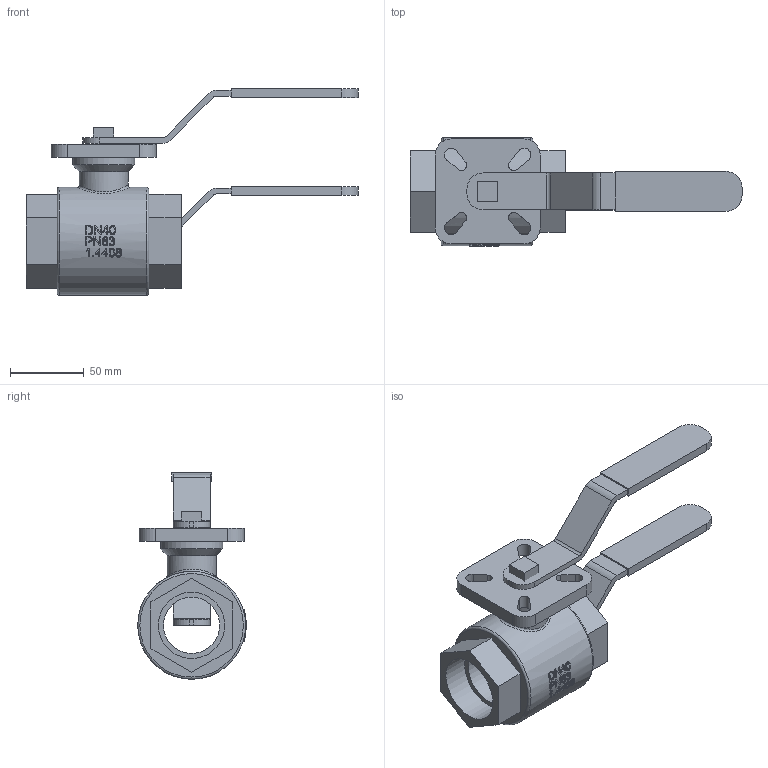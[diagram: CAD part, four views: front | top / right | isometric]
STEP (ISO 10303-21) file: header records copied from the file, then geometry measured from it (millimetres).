
FILE_DESCRIPTION( ( 'Unknown' ), '1' );
FILE_NAME( 'J:/Muud/ROOTSI BPS 3D vidinad/Kuulkraanid/Roostevaba kuulkraanid/Ball valve BPS 2411/Ball valve with hand lever BPS/STEP formaat/BPS 2411040 ball valve DN40.stp', 'Unknown', ( 'Unknown' ), ( 'Unknown' ), 'PSStep 10.1', 'Unknown', ' ' );
FILE_SCHEMA( ( 'AUTOMOTIVE_DESIGN { 1 0 10303 214 1 1 1 1 }' ) );
Length unit declared in the file: millimetre
Products named in the file (3): Assem1; BPS 2411040 ball valve DN40; Hand lever for ball valve DN40-50 BPS 2411
Bounding box: 224.5 x 73.5 x 139.7 mm (x, y, z)
Volume: 650467.5 mm3; surface area: 135690.7 mm2
Topology: 4 solids, 4 shells, 424 faces, 1076 edges, 716 vertices
Faces by surface type: plane 238, cylinder 106, bspline 74, torus 4, cone 2
Full cylindrical faces by diameter (mm): 3 x2, 33 x2, 38 x2, 42 x2, 44.845 x4, 73 x2
Entity records: 12986 total; most frequent: CARTESIAN_POINT 6979, ORIENTED_EDGE 998, DIRECTION 602, EDGE_CURVE 499, VERTEX_POINT 343, B_SPLINE_CURVE_WITH_KNOTS 304, EDGE_LOOP 272, AXIS2_PLACEMENT_3D 231
